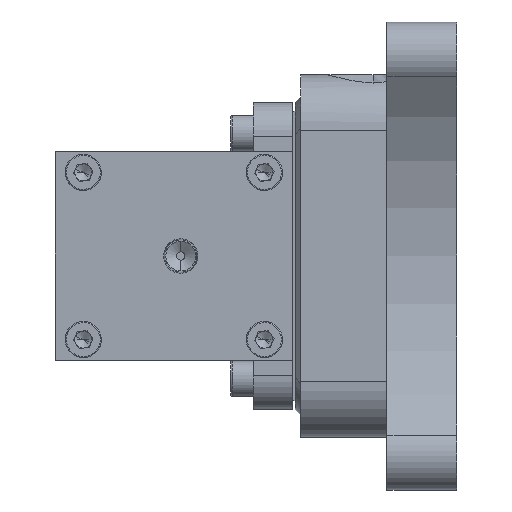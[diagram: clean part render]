
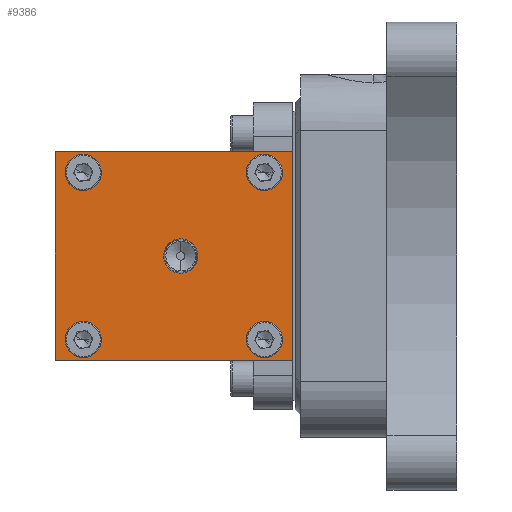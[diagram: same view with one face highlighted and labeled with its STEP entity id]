
A CAD part, left-side view. The second image highlights one B-rep face of the part: STEP entity #9386.
In plain terms, the highlighted planar face has unit normal (-1, 0, 0) as drawn and (1, 0, 0) by its records, which use the part's own axes.
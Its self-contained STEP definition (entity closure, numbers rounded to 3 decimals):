
#18 = VERTEX_POINT ( 'NONE', #1555 ) ;
#27 = CARTESIAN_POINT ( 'NONE',  ( 93., 1., 37.5 ) ) ;
#111 = CIRCLE ( 'NONE', #6329, 6.154 ) ;
#176 = EDGE_CURVE ( 'NONE', #2952, #1396, #5560, .T. ) ;
#314 = CIRCLE ( 'NONE', #5118, 4. ) ;
#490 = FACE_BOUND ( 'NONE', #497, .T. ) ;
#497 = EDGE_LOOP ( 'NONE', ( #5890, #4456 ) ) ;
#531 = CIRCLE ( 'NONE', #3072, 4. ) ;
#801 = DIRECTION ( 'NONE',  ( 0., 0., -1. ) ) ;
#958 = VERTEX_POINT ( 'NONE', #4793 ) ;
#997 = VERTEX_POINT ( 'NONE', #2555 ) ;
#1161 = CIRCLE ( 'NONE', #1935, 4. ) ;
#1210 = DIRECTION ( 'NONE',  ( 0., 0., -1. ) ) ;
#1233 = AXIS2_PLACEMENT_3D ( 'NONE', #9263, #4035, #2501 ) ;
#1285 = EDGE_CURVE ( 'NONE', #5755, #1368, #4755, .T. ) ;
#1331 = CIRCLE ( 'NONE', #7986, 4. ) ;
#1338 = ORIENTED_EDGE ( 'NONE', *, *, #2068, .F. ) ;
#1368 = VERTEX_POINT ( 'NONE', #8428 ) ;
#1396 = VERTEX_POINT ( 'NONE', #1693 ) ;
#1407 = DIRECTION ( 'NONE',  ( 0., 0., -1. ) ) ;
#1427 = VERTEX_POINT ( 'NONE', #6862 ) ;
#1472 = DIRECTION ( 'NONE',  ( 0., 0., -1. ) ) ;
#1542 = EDGE_CURVE ( 'NONE', #4550, #1427, #1161, .T. ) ;
#1555 = CARTESIAN_POINT ( 'NONE',  ( 93., 86., 37.5 ) ) ;
#1620 = ORIENTED_EDGE ( 'NONE', *, *, #9217, .F. ) ;
#1693 = CARTESIAN_POINT ( 'NONE',  ( 93., 11., -34. ) ) ;
#1739 = FACE_BOUND ( 'NONE', #6518, .T. ) ;
#1836 = ORIENTED_EDGE ( 'NONE', *, *, #6979, .F. ) ;
#1861 = VECTOR ( 'NONE', #9558, 1000. ) ;
#1882 = AXIS2_PLACEMENT_3D ( 'NONE', #4040, #6159, #3966 ) ;
#1935 = AXIS2_PLACEMENT_3D ( 'NONE', #4052, #9278, #7808 ) ;
#2024 = DIRECTION ( 'NONE',  ( 0., 0., -1. ) ) ;
#2068 = EDGE_CURVE ( 'NONE', #997, #9275, #7141, .T. ) ;
#2216 = AXIS2_PLACEMENT_3D ( 'NONE', #5801, #8775, #1472 ) ;
#2218 = ORIENTED_EDGE ( 'NONE', *, *, #176, .F. ) ;
#2225 = PLANE ( 'NONE',  #3760 ) ;
#2409 = EDGE_LOOP ( 'NONE', ( #1836, #2218 ) ) ;
#2425 = DIRECTION ( 'NONE',  ( -1., 0., 0. ) ) ;
#2484 = EDGE_CURVE ( 'NONE', #9275, #997, #111, .T. ) ;
#2501 = DIRECTION ( 'NONE',  ( 0., 0., -1. ) ) ;
#2506 = ORIENTED_EDGE ( 'NONE', *, *, #6747, .F. ) ;
#2555 = CARTESIAN_POINT ( 'NONE',  ( 93., 41., 6.154 ) ) ;
#2645 = FACE_OUTER_BOUND ( 'NONE', #7310, .T. ) ;
#2952 = VERTEX_POINT ( 'NONE', #6349 ) ;
#3033 = DIRECTION ( 'NONE',  ( 1., 0., 0. ) ) ;
#3072 = AXIS2_PLACEMENT_3D ( 'NONE', #6380, #7931, #2024 ) ;
#3100 = CARTESIAN_POINT ( 'NONE',  ( 93., 86., 37.5 ) ) ;
#3183 = CARTESIAN_POINT ( 'NONE',  ( 93., 76., 26. ) ) ;
#3332 = CARTESIAN_POINT ( 'NONE',  ( 93., 86., -37.5 ) ) ;
#3522 = CIRCLE ( 'NONE', #7163, 4. ) ;
#3576 = DIRECTION ( 'NONE',  ( 1., 0., 0. ) ) ;
#3701 = FACE_BOUND ( 'NONE', #9494, .T. ) ;
#3728 = DIRECTION ( 'NONE',  ( 0., 0., -1. ) ) ;
#3760 = AXIS2_PLACEMENT_3D ( 'NONE', #4006, #2425, #5386 ) ;
#3762 = CIRCLE ( 'NONE', #7556, 4. ) ;
#3783 = CARTESIAN_POINT ( 'NONE',  ( 93., 76., -26. ) ) ;
#3811 = ORIENTED_EDGE ( 'NONE', *, *, #1285, .T. ) ;
#3823 = FACE_BOUND ( 'NONE', #7671, .T. ) ;
#3854 = CARTESIAN_POINT ( 'NONE',  ( 93., 41., 0. ) ) ;
#3966 = DIRECTION ( 'NONE',  ( 0., 0., -1. ) ) ;
#4006 = CARTESIAN_POINT ( 'NONE',  ( 93., 86., 37.5 ) ) ;
#4035 = DIRECTION ( 'NONE',  ( 1., 0., 0. ) ) ;
#4040 = CARTESIAN_POINT ( 'NONE',  ( 93., 41., 0. ) ) ;
#4052 = CARTESIAN_POINT ( 'NONE',  ( 93., 76., -30. ) ) ;
#4134 = VERTEX_POINT ( 'NONE', #9477 ) ;
#4262 = ORIENTED_EDGE ( 'NONE', *, *, #5274, .F. ) ;
#4303 = DIRECTION ( 'NONE',  ( 0., 1., 0. ) ) ;
#4401 = DIRECTION ( 'NONE',  ( 1., 0., 0. ) ) ;
#4456 = ORIENTED_EDGE ( 'NONE', *, *, #1542, .F. ) ;
#4506 = ORIENTED_EDGE ( 'NONE', *, *, #6903, .F. ) ;
#4550 = VERTEX_POINT ( 'NONE', #3783 ) ;
#4622 = VECTOR ( 'NONE', #7401, 1000. ) ;
#4755 = LINE ( 'NONE', #6834, #1861 ) ;
#4790 = VERTEX_POINT ( 'NONE', #3332 ) ;
#4793 = CARTESIAN_POINT ( 'NONE',  ( 93., 11., 34. ) ) ;
#4854 = LINE ( 'NONE', #3100, #7771 ) ;
#5118 = AXIS2_PLACEMENT_3D ( 'NONE', #7103, #8542, #1210 ) ;
#5179 = EDGE_CURVE ( 'NONE', #8887, #9440, #1331, .T. ) ;
#5274 = EDGE_CURVE ( 'NONE', #5755, #18, #6753, .T. ) ;
#5386 = DIRECTION ( 'NONE',  ( 0., 0., 1. ) ) ;
#5538 = CARTESIAN_POINT ( 'NONE',  ( 93., 76., 34. ) ) ;
#5560 = CIRCLE ( 'NONE', #1233, 4. ) ;
#5755 = VERTEX_POINT ( 'NONE', #27 ) ;
#5801 = CARTESIAN_POINT ( 'NONE',  ( 93., 11., 30. ) ) ;
#5816 = CIRCLE ( 'NONE', #2216, 4. ) ;
#5890 = ORIENTED_EDGE ( 'NONE', *, *, #7583, .F. ) ;
#5924 = CARTESIAN_POINT ( 'NONE',  ( 93., 11., -30. ) ) ;
#6159 = DIRECTION ( 'NONE',  ( 1., 0., 0. ) ) ;
#6329 = AXIS2_PLACEMENT_3D ( 'NONE', #3854, #9115, #8330 ) ;
#6349 = CARTESIAN_POINT ( 'NONE',  ( 93., 11., -26. ) ) ;
#6380 = CARTESIAN_POINT ( 'NONE',  ( 93., 76., -30. ) ) ;
#6518 = EDGE_LOOP ( 'NONE', ( #2506, #7736 ) ) ;
#6575 = LINE ( 'NONE', #6613, #4622 ) ;
#6613 = CARTESIAN_POINT ( 'NONE',  ( 93., 86., -37.5 ) ) ;
#6747 = EDGE_CURVE ( 'NONE', #9440, #8887, #314, .T. ) ;
#6753 = LINE ( 'NONE', #8669, #8734 ) ;
#6756 = CARTESIAN_POINT ( 'NONE',  ( 93., 41., -6.154 ) ) ;
#6834 = CARTESIAN_POINT ( 'NONE',  ( 93., 1., 37.5 ) ) ;
#6862 = CARTESIAN_POINT ( 'NONE',  ( 93., 76., -34. ) ) ;
#6903 = EDGE_CURVE ( 'NONE', #958, #4134, #3762, .T. ) ;
#6979 = EDGE_CURVE ( 'NONE', #1396, #2952, #3522, .T. ) ;
#7103 = CARTESIAN_POINT ( 'NONE',  ( 93., 76., 30. ) ) ;
#7141 = CIRCLE ( 'NONE', #1882, 6.154 ) ;
#7163 = AXIS2_PLACEMENT_3D ( 'NONE', #5924, #4401, #801 ) ;
#7310 = EDGE_LOOP ( 'NONE', ( #9371, #1620, #4262, #3811 ) ) ;
#7401 = DIRECTION ( 'NONE',  ( 0., 1., 0. ) ) ;
#7556 = AXIS2_PLACEMENT_3D ( 'NONE', #8024, #3576, #1407 ) ;
#7583 = EDGE_CURVE ( 'NONE', #1427, #4550, #531, .T. ) ;
#7671 = EDGE_LOOP ( 'NONE', ( #7993, #1338 ) ) ;
#7736 = ORIENTED_EDGE ( 'NONE', *, *, #5179, .F. ) ;
#7740 = EDGE_CURVE ( 'NONE', #4134, #958, #5816, .T. ) ;
#7771 = VECTOR ( 'NONE', #3728, 1000. ) ;
#7808 = DIRECTION ( 'NONE',  ( 0., 0., -1. ) ) ;
#7931 = DIRECTION ( 'NONE',  ( 1., 0., 0. ) ) ;
#7986 = AXIS2_PLACEMENT_3D ( 'NONE', #9114, #3033, #9083 ) ;
#7993 = ORIENTED_EDGE ( 'NONE', *, *, #2484, .F. ) ;
#8024 = CARTESIAN_POINT ( 'NONE',  ( 93., 11., 30. ) ) ;
#8330 = DIRECTION ( 'NONE',  ( 0., 0., -1. ) ) ;
#8428 = CARTESIAN_POINT ( 'NONE',  ( 93., 1., -37.5 ) ) ;
#8469 = FACE_BOUND ( 'NONE', #2409, .T. ) ;
#8534 = ORIENTED_EDGE ( 'NONE', *, *, #7740, .F. ) ;
#8542 = DIRECTION ( 'NONE',  ( 1., 0., 0. ) ) ;
#8669 = CARTESIAN_POINT ( 'NONE',  ( 93., 86., 37.5 ) ) ;
#8734 = VECTOR ( 'NONE', #4303, 1000. ) ;
#8775 = DIRECTION ( 'NONE',  ( 1., 0., 0. ) ) ;
#8887 = VERTEX_POINT ( 'NONE', #5538 ) ;
#9083 = DIRECTION ( 'NONE',  ( 0., 0., -1. ) ) ;
#9114 = CARTESIAN_POINT ( 'NONE',  ( 93., 76., 30. ) ) ;
#9115 = DIRECTION ( 'NONE',  ( 1., 0., 0. ) ) ;
#9217 = EDGE_CURVE ( 'NONE', #18, #4790, #4854, .T. ) ;
#9263 = CARTESIAN_POINT ( 'NONE',  ( 93., 11., -30. ) ) ;
#9275 = VERTEX_POINT ( 'NONE', #6756 ) ;
#9278 = DIRECTION ( 'NONE',  ( 1., 0., 0. ) ) ;
#9371 = ORIENTED_EDGE ( 'NONE', *, *, #9550, .T. ) ;
#9386 = ADVANCED_FACE ( 'NONE', ( #2645, #1739, #490, #3701, #8469, #3823 ), #2225, .F. ) ;
#9440 = VERTEX_POINT ( 'NONE', #3183 ) ;
#9477 = CARTESIAN_POINT ( 'NONE',  ( 93., 11., 26. ) ) ;
#9494 = EDGE_LOOP ( 'NONE', ( #8534, #4506 ) ) ;
#9550 = EDGE_CURVE ( 'NONE', #1368, #4790, #6575, .T. ) ;
#9558 = DIRECTION ( 'NONE',  ( 0., 0., -1. ) ) ;
